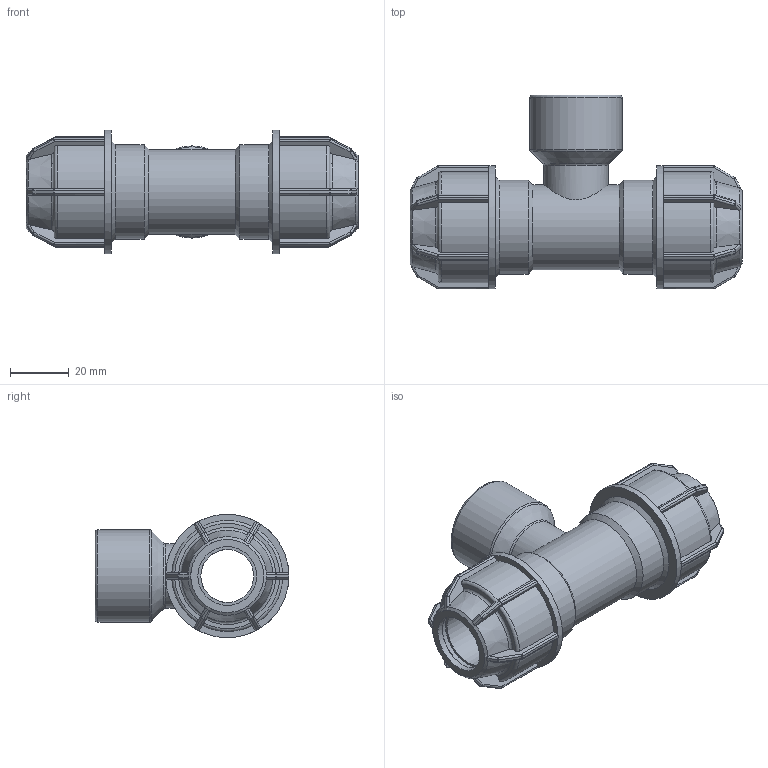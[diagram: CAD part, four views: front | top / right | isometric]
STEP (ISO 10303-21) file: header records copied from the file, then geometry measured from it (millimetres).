
FILE_DESCRIPTION(/* description */ ('PLASSON L.14 TEE FEMALE ADAPTOR (SILVER) 20 x 3/4" x 20'),/* implementation_level */ '2;1');
FILE_NAME(/* name */ 'C:\Dropbox\KIMPROJECTS-Inventor\99-16-3568-Processing\Silver Fittings\141400\141400020007.ipt.stp',/* time_stamp */ '2018-04-16T11:15:46+03:00',/* author */ ('KIM'),/* organization */ (''),/* preprocessor_version */ 'ST-DEVELOPER v15.6',/* originating_system */ 'Autodesk Inventor 2015',/* authorisation */ '');
FILE_SCHEMA (('AUTOMOTIVE_DESIGN { 1 0 10303 214 3 1 1 }'));
Length unit declared in the file: millimetre
Products named in the file (1): 141400020007
Bounding box: 113 x 66 x 42 mm (x, y, z)
Volume: 71560.2 mm3; surface area: 28379.9 mm2
Topology: 1 solids, 1 shells, 415 faces, 996 edges, 571 vertices
Faces by surface type: plane 195, cylinder 122, sphere 48, torus 31, cone 19
Full cylindrical faces by diameter (mm): 18 x2, 20 x4, 21.946 x1, 24.117 x1, 28.8 x1, 31.352 x1, 32 x2, 42 x2
Entity records: 11996 total; most frequent: CARTESIAN_POINT 3090, DIRECTION 1876, ORIENTED_EDGE 1824, EDGE_CURVE 912, AXIS2_PLACEMENT_3D 758, VERTEX_POINT 540, EDGE_LOOP 450, FACE_OUTER_BOUND 410
